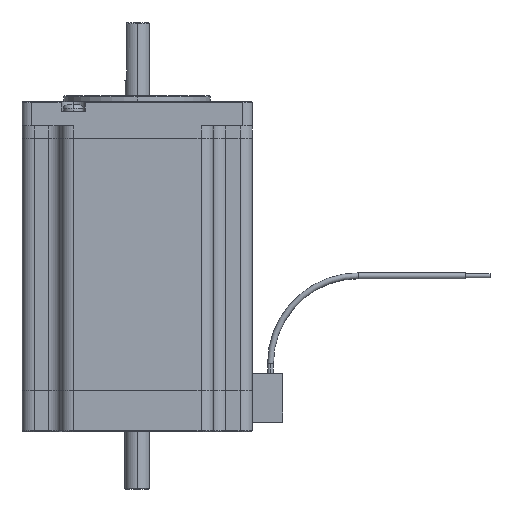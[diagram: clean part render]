
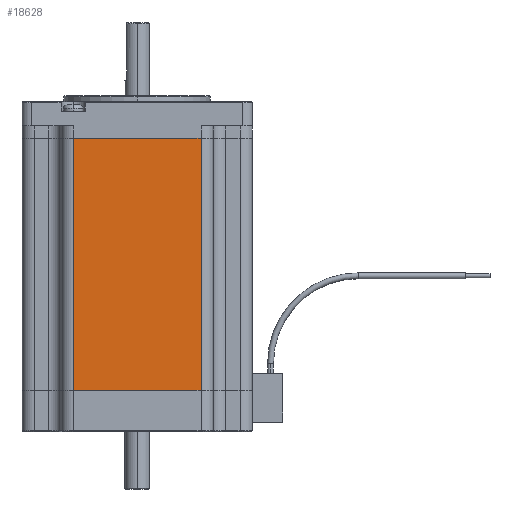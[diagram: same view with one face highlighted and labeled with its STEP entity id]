
A CAD part, left-side view. The second image highlights one B-rep face of the part: STEP entity #18628.
In plain terms, the highlighted planar face has unit normal (-1, 0, 0).
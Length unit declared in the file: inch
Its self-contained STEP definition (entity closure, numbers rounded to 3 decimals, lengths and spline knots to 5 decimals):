
#1380 = CARTESIAN_POINT ( 'NONE',  ( -1.179, 0.655, -0.375 ) ) ;
#1403 = CARTESIAN_POINT ( 'NONE',  ( -1.179, -0.655, -0.375 ) ) ;
#1406 = DIRECTION ( 'NONE',  ( 0., 1., 0. ) ) ;
#1407 = VECTOR ( 'NONE', #1406, 39.37008 ) ;
#1408 = CARTESIAN_POINT ( 'NONE',  ( -1.179, -0.655, -0.375 ) ) ;
#1409 = LINE ( 'NONE', #1408, #1407 ) ;
#8808 = VERTEX_POINT ( 'NONE', #1380 ) ;
#8812 = EDGE_CURVE ( 'NONE', #8814, #8808, #1409, .T. ) ;
#8814 = VERTEX_POINT ( 'NONE', #1403 ) ;
#15816 = CARTESIAN_POINT ( 'NONE',  ( -1.179, -0.655, -2.961 ) ) ;
#15997 = FACE_OUTER_BOUND ( 'NONE', #18566, .T. ) ;
#16003 = CARTESIAN_POINT ( 'NONE',  ( -1.179, 0.655, -2.961 ) ) ;
#16006 = DIRECTION ( 'NONE',  ( 0., 1., 0. ) ) ;
#16007 = VECTOR ( 'NONE', #16006, 39.37008 ) ;
#16017 = DIRECTION ( 'NONE',  ( 0., 0., 1. ) ) ;
#16018 = VECTOR ( 'NONE', #16017, 39.37008 ) ;
#16019 = CARTESIAN_POINT ( 'NONE',  ( -1.179, -0.655, -2.961 ) ) ;
#16020 = CARTESIAN_POINT ( 'NONE',  ( -1.179, -0.655, -2.961 ) ) ;
#16022 = LINE ( 'NONE', #16020, #16007 ) ;
#16026 = LINE ( 'NONE', #16019, #16018 ) ;
#16030 = AXIS2_PLACEMENT_3D ( 'NONE', #16077, #16110, #16109 ) ;
#16053 = PLANE ( 'NONE',  #16030 ) ;
#16077 = CARTESIAN_POINT ( 'NONE',  ( -1.179, -0.655, -2.961 ) ) ;
#16101 = CARTESIAN_POINT ( 'NONE',  ( -1.179, 0.655, -2.961 ) ) ;
#16109 = DIRECTION ( 'NONE',  ( 0., 1., 0. ) ) ;
#16110 = DIRECTION ( 'NONE',  ( 1., 0., 0. ) ) ;
#16127 = DIRECTION ( 'NONE',  ( 0., 0., 1. ) ) ;
#16128 = VECTOR ( 'NONE', #16127, 39.37008 ) ;
#16136 = LINE ( 'NONE', #16101, #16128 ) ;
#18545 = VERTEX_POINT ( 'NONE', #15816 ) ;
#18566 = EDGE_LOOP ( 'NONE', ( #18617, #18610, #18614, #18605 ) ) ;
#18605 = ORIENTED_EDGE ( 'NONE', *, *, #18609, .T. ) ;
#18609 = EDGE_CURVE ( 'NONE', #18545, #8814, #16026, .T. ) ;
#18610 = ORIENTED_EDGE ( 'NONE', *, *, #18639, .F. ) ;
#18614 = ORIENTED_EDGE ( 'NONE', *, *, #18616, .F. ) ;
#18616 = EDGE_CURVE ( 'NONE', #18545, #18620, #16022, .T. ) ;
#18617 = ORIENTED_EDGE ( 'NONE', *, *, #8812, .T. ) ;
#18620 = VERTEX_POINT ( 'NONE', #16003 ) ;
#18628 = ADVANCED_FACE ( 'NONE', ( #15997 ), #16053, .F. ) ;
#18639 = EDGE_CURVE ( 'NONE', #18620, #8808, #16136, .T. ) ;
